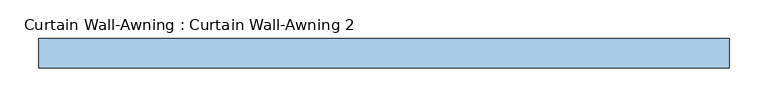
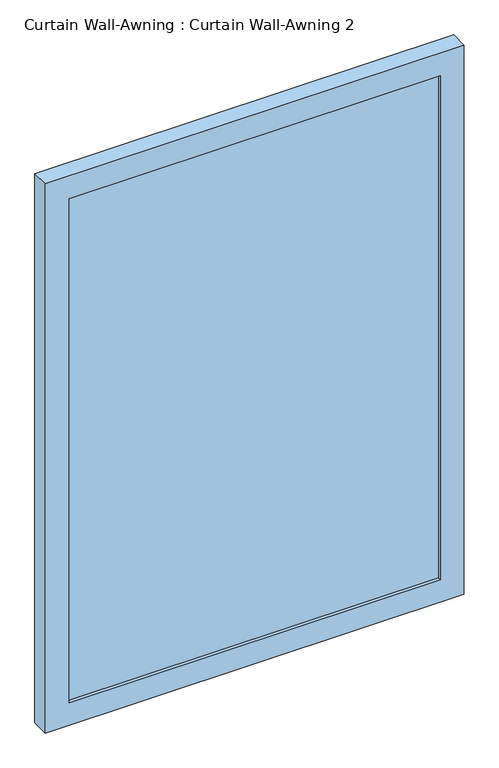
"""IFC4 building model written with IfcOpenShell, lengths in millimetres: window geometry, Curtain Wall-Awning : Curtain Wall-Awning 2."""

from ifc_helpers import new_model, si_unit, frame, origin, place, context, project, spatial, polyline, outline, extrude, source, transform, mapped, element, save


def curtain_wall_awning_curtain_wall_awning_2_b29e44a4(model_context):
    return source(origin(), model_context, "Body", "SweptSolid", [
        extrude(outline(polyline([(395.5671102, 19.05), (395.5671102, 6.35), (-395.5671102, 6.35), (-395.5671102, 19.05), (395.5671102, 19.05)])), frame((0.0, 0.0, 50.8), z_axis=(0.0, 0.0, 1.0), x_axis=(1.0, 0.0, 0.0)), (0.0, 0.0, 1.0), 1134.635445),
        extrude(outline(polyline([(1236.235445, -446.3671102), (0.0, -446.3671102), (0.0, 446.3671102), (1236.235445, 446.3671102), (1236.235445, -446.3671102)]), holes=[polyline([(1185.435445, -395.5671102), (1185.435445, 395.5671102), (50.8, 395.5671102), (50.8, -395.5671102), (1185.435445, -395.5671102)])]), frame((0.0, 0.0, 0.0), z_axis=(0.0, 1.0, 0.0), x_axis=(0.0, 0.0, 1.0)), (0.0, 0.0, 1.0), 38.1),
    ])


if __name__ == "__main__":
    model = new_model("IFC4")
    model_context = context("Model", 3, world=origin())
    ifc_project = project(units=[si_unit("LENGTHUNIT", "METRE", prefix="MILLI")], contexts=[model_context])
    site = spatial("IfcSite", under=ifc_project)
    building = spatial("IfcBuilding", under=site)
    placement = place(None, origin())
    curtain_wall_awning_curtain_wall_awning_2_shape = curtain_wall_awning_curtain_wall_awning_2_b29e44a4(model_context)
    element("IfcWindow", 1, ObjectType="Curtain Wall-Awning : Curtain Wall-Awning 2", at=placement, inside=building, context=model_context, shape_type="MappedRepresentation", body=[
        mapped(curtain_wall_awning_curtain_wall_awning_2_shape, transform((0.0, 0.0, 0.0), x_axis=(1.0, 0.0, 0.0), y_axis=(0.0, 1.0, 0.0), z_axis=(0.0, 0.0, 1.0))),
    ])
    save(model, "model.ifc")
